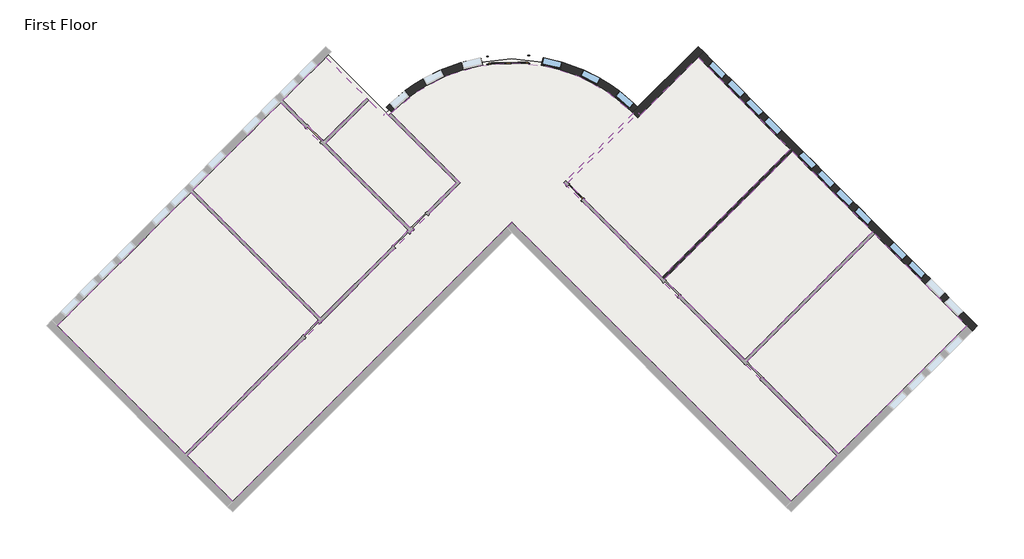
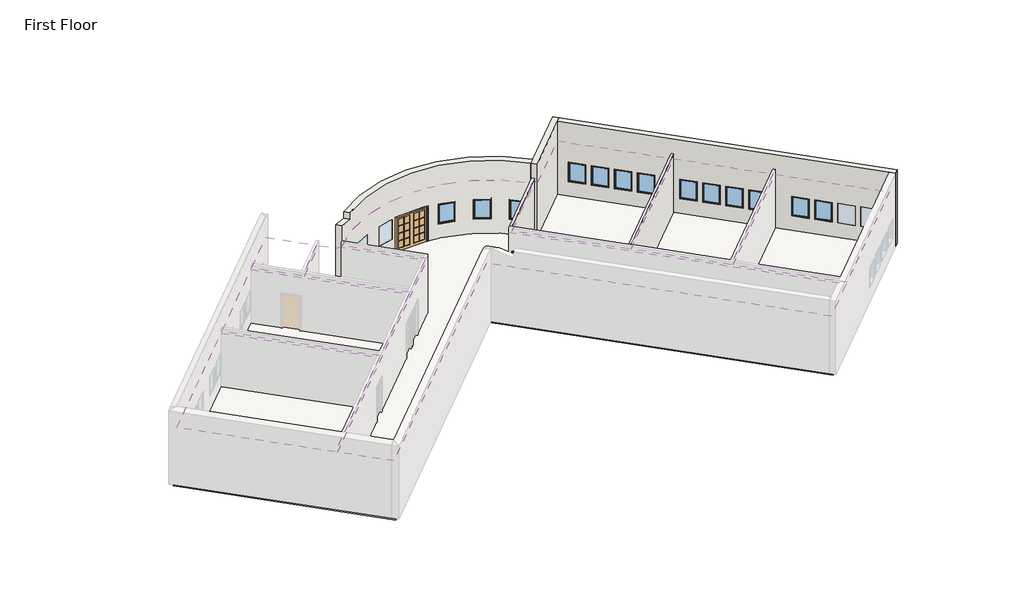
# One storey, part 2 of 2: 13 windows, 8 coverings, 5 walls, 2 doors, 1 slab.
"""IFC4 building model written with IfcOpenShell, lengths in millimetres."""

from ifc_helpers import new_model, si_unit, point, frame, frame_2d, origin, origin_with_axes, place, context, project, spatial, polyline, circle_curve, ellipse_curve, trimmed, segment, composite_curve, outline, extrude, faceted_brep, transform, mapped, element, save
from ifc_brep_helpers import plane_surface, cylinder_surface, revolved_surface, advanced_brep
from components import m_double_glass_2_1830_x_2134mm_ef281dce, m_single_glass_1_0915_x_2134mm_4e5e1233, m_fixed_0915_x_1220mm_bde29121, m_fixed_0915_x_1220mm_2a2509e7

model = new_model("IFC4")

# Units and contexts
model_context = context("Model", 3, world=origin())
ifc_project = project(units=[si_unit("LENGTHUNIT", "METRE", prefix="MILLI")], contexts=[model_context])

# Site, building, storey
site = spatial("IfcSite", under=ifc_project)
building = spatial("IfcBuilding", under=site)
storey = spatial("IfcBuildingStorey", under=building, Name="First Floor", Elevation=0.0)

# Coverings
placement = place(None, origin())
element("IfcCovering", 1, ObjectType="600 x 600mm grid", at=placement, inside=storey, context=model_context, shape_type="SweptSolid", body=[
    extrude(outline(polyline([(-10551.8033322, -2052.473346), (-16737.0431239, -8237.7131378), (-22658.8856396, -2315.870622), (-16473.6458479, 3869.3691697), (-10551.8033322, -2052.473346)])), frame((0.0, 0.0, 3353.0), z_axis=(0.0, 0.0, 1.0), x_axis=(1.0, 0.0, 0.0)), (0.0, 0.0, 1.0), 52.0),
])
element("IfcCovering", 2, ObjectType="600 x 600mm grid", at=placement, inside=storey, context=model_context, shape_type="SweptSolid", body=[
    extrude(outline(polyline([(-16375.7115587, 3967.3034589), (-12319.9238385, 8023.0911791), (-6398.0813228, 2101.2486633), (-10453.869043, -1954.5390569), (-16375.7115587, 3967.3034589)])), frame((0.0, 0.0, 3353.0), z_axis=(0.0, 0.0, 1.0), x_axis=(1.0, 0.0, 0.0)), (0.0, 0.0, 1.0), 52.0),
])
element("IfcCovering", 3, ObjectType="600 x 600mm grid", at=placement, inside=storey, context=model_context, shape_type="SweptSolid", body=[
    extrude(outline(polyline([(-12221.9895493, 8121.0254683), (-10222.2915721, 10120.7234455), (-8331.6648159, 8230.0966893), (-10331.3627931, 6230.3987121), (-12221.9895493, 8121.0254683)])), frame((0.0, 0.0, 3353.0), z_axis=(0.0, 0.0, 1.0), x_axis=(1.0, 0.0, 0.0)), (0.0, 0.0, 1.0), 52.0),
])
element("IfcCovering", 4, ObjectType="600 x 600mm grid", at=placement, inside=storey, context=model_context, shape_type="SweptSolid", body=[
    extrude(outline(polyline([(-8233.7305267, 8132.1624001), (-7543.133828, 7441.5657013), (-7436.5374807, 7548.1620486), (-4193.8527091, 4305.477277), (-6300.1470336, 2199.1829525), (-10233.4285039, 6132.4644229), (-8233.7305267, 8132.1624001)])), frame((0.0, 0.0, 3353.0), z_axis=(0.0, 0.0, 1.0), x_axis=(1.0, 0.0, 0.0)), (0.0, 0.0, 1.0), 52.0),
])
element("IfcCovering", 5, ObjectType="600 x 600mm grid", at=placement, inside=storey, context=model_context, shape_type="SweptSolid", body=[
    extrude(outline(polyline([(4234.0460889, 7548.1620486), (4340.6424361, 7441.5657013), (7019.8001803, 10120.7234455), (11281.3559738, 5859.167652), (5359.5134581, -62.6748638), (991.3613173, 4305.477277), (4234.0460889, 7548.1620486)])), frame((0.0, 0.0, 3353.0), z_axis=(0.0, 0.0, 1.0), x_axis=(1.0, 0.0, 0.0)), (0.0, 0.0, 1.0), 52.0),
])
element("IfcCovering", 6, ObjectType="600 x 600mm grid", at=placement, inside=storey, context=model_context, shape_type="SweptSolid", body=[
    extrude(outline(polyline([(11379.290263, 5761.2333628), (15096.9041651, 2043.6194607), (9175.0616494, -3878.2230551), (5457.4477473, -160.609153), (11379.290263, 5761.2333628)])), frame((0.0, 0.0, 3353.0), z_axis=(0.0, 0.0, 1.0), x_axis=(1.0, 0.0, 0.0)), (0.0, 0.0, 1.0), 52.0),
])
element("IfcCovering", 7, ObjectType="600 x 600mm grid", at=placement, inside=storey, context=model_context, shape_type="SweptSolid", body=[
    extrude(outline(polyline([(15194.8384543, 1945.6851715), (19456.3942478, -2315.870622), (13534.5517321, -8237.7131378), (9272.9959386, -3976.1573443), (15194.8384543, 1945.6851715)])), frame((0.0, 0.0, 3353.0), z_axis=(0.0, 0.0, 1.0), x_axis=(1.0, 0.0, 0.0)), (0.0, 0.0, 1.0), 52.0),
])
element("IfcCovering", 8, ObjectType="600 x 600mm grid", at=placement, inside=storey, context=model_context, shape_type="SweptSolid", body=[
    extrude(outline(composite_curve([segment(polyline([(795.4927389, 4305.477277), (13436.6174429, -8335.647427), (11330.3231184, -10441.9417514), (-1601.2456959, 2489.6270629), (-14532.8145102, -10441.9417514), (-16639.1088347, -8335.647427), (-3997.9841307, 4305.477277), (-7216.038281, 7523.5314273)]), True, "CONTINUOUS"), segment(trimmed(circle_curve(frame_2d((-1601.2456959, 1994.6523161)), 7880.0), [point((-7216.038281, 7523.5314273))], [point((4013.5468892, 7523.5314273))], False, "CARTESIAN"), True, "CONTINUOUS"), segment(polyline([(4013.5468892, 7523.5314273), (795.4927389, 4305.477277)]), True, "CONTINUOUS")], self_intersect=False)), frame((0.0, 0.0, 3353.0), z_axis=(0.0, 0.0, 1.0), x_axis=(1.0, 0.0, 0.0)), (0.0, 0.0, 1.0), 52.0),
])

# Doors
m_double_glass_2_1830_x_2134mm_shape = m_double_glass_2_1830_x_2134mm_ef281dce(model_context)
element("IfcDoor", 9, ObjectType="M_Double-Glass 2 : 1830 x 2134mm", at=placement, inside=storey, context=model_context, shape_type="MappedRepresentation", body=[
    mapped(m_double_glass_2_1830_x_2134mm_shape, transform((-1775.1372024, 9996.7407669, 0.0), x_axis=(-0.9997639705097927, -0.021725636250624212, 0.0), y_axis=(0.021725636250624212, -0.9997639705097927, 0.0), z_axis=(0.0, 0.0, 1.0))),
])
m_single_glass_1_0915_x_2134mm_shape = m_single_glass_1_0915_x_2134mm_4e5e1233(model_context)
element("IfcDoor", 10, ObjectType="M_Single-Glass 1 : 0915 x 2134mm", at=placement, inside=storey, context=model_context, shape_type="MappedRepresentation", body=[
    mapped(m_single_glass_1_0915_x_2134mm_shape, transform((1324.7621646, 3874.1421405, 0.0), x_axis=(-0.7071067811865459, 0.7071067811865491, 0.0), y_axis=(-0.7071067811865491, -0.7071067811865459, 0.0), z_axis=(0.0, 0.0, 1.0))),
])

# Slab
element("IfcSlab", 11, ObjectType="160mm Concrete With 50mm Metal Deck", at=placement, inside=storey, context=model_context, shape_type="SweptSolid", body=[
    extrude(outline(composite_curve([segment(polyline([(-10222.2915721, 10354.0686833), (-7419.2302211, 7551.0073322)]), True, "CONTINUOUS"), segment(trimmed(circle_curve(frame_2d((-1601.2456959, 1994.6523161)), 8045.0), [point((-7419.2302211, 7551.0073322))], [point((4216.7388292, 7551.0073322))], False, "CARTESIAN"), True, "CONTINUOUS"), segment(polyline([(4216.7388292, 7551.0073322), (7019.8001803, 10354.0686833), (19689.7394856, -2315.870622), (11330.3231184, -10675.2869892), (-1601.2456959, 2256.2818251), (-14532.8145102, -10675.2869892), (-22892.2308774, -2315.870622), (-10222.2915721, 10354.0686833)]), True, "CONTINUOUS")], self_intersect=False)), frame((0.0, 0.0, -210.0), z_axis=(0.0, 0.0, 1.0), x_axis=(1.0, 0.0, 0.0)), (0.0, 0.0, 1.0), 210.0),
])

# Walls
element("IfcWall", 12, ObjectType="Exterior - Brick on Mtl. Stud", at=placement, inside=storey, context=model_context, shape_type="AdvancedBrep", body=[
    advanced_brep(
    [(4212.7441701, 7313.6674352, 4572.0), (4212.7441701, 7313.6674352, 0.0), (7019.8001803, 10120.7234455, 0.0), (7267.2875537, 10368.2108189, 0.0), (7267.2875537, 10368.2108189, 4572.0), (7019.8001803, 10120.7234455, 4572.0), (3970.7557398, 7566.6537518, 0.0), (3970.7557398, 7566.6537518, 4572.0), (4218.2431133, 7814.1411252, 4572.0), (7019.8001803, 10615.6981923, 4572.0), (7019.8001803, 10615.6981923, 0.0), (4218.2431133, 7814.1411252, 0.0), (4109.8638796, 7423.9826013, 0.0), (4013.5506313, 7523.5275434, 0.0)],
    [
        (0, 1),
        (1, 2),
        (2, 3),
        (3, 4),
        (4, 5),
        (5, 0),
        (6, 7),
        (7, 8),
        (8, 9),
        (9, 10),
        (10, 11),
        (11, 6),
        (1, 12, circle_curve(frame((-1601.2456959, 1994.6523161, 0.0), z_axis=(0.0, 0.0, 1.0), x_axis=(1.0, 0.0, 0.0)), 7880.0)),
        (12, 13, circle_curve(frame((-1601.2456959, 1994.6523161, 0.0), z_axis=(0.0, 0.0, 1.0), x_axis=(1.0, 0.0, 0.0)), 7879.9999955)),
        (13, 6, circle_curve(frame((-1601.2456959, 1994.6523161, 0.0), z_axis=(0.0, 0.0, 1.0), x_axis=(1.0, 0.0, 0.0)), 7879.9999413)),
        (10, 3),
        (4, 9),
        (7, 0, circle_curve(frame((-1601.2456959, 1994.6523161, 4572.0), z_axis=(0.0, 0.0, -1.0), x_axis=(1.0, 0.0, 0.0)), 7880.0)),
    ],
    [
        plane_surface(frame((4250.0629184, 7350.9861836, 0.0), z_axis=(0.7071067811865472, -0.7071067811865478, 0.0), x_axis=(0.7071067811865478, 0.7071067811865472, 0.0))),
        plane_surface(frame((4002.575545, 7598.473557, 0.0), z_axis=(-0.7071067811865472, 0.7071067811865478, 0.0), x_axis=(-0.7071067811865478, -0.7071067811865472, 0.0))),
        plane_surface(frame((4340.6424361, 7441.5657013, 0.0), z_axis=(0.0, 0.0, -1.0), x_axis=(-0.7071067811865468, 0.7071067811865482, 0.0))),
        plane_surface(frame((7143.543867, 10244.4671322, 4572.0), z_axis=(0.0, 0.0, 1.0), x_axis=(-0.707106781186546, 0.7071067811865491, 0.0))),
        plane_surface(frame((7019.8001803, 10615.6981923, 0.0), z_axis=(0.7071067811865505, 0.7071067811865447, 0.0), x_axis=(-0.7071067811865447, 0.7071067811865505, 0.0))),
        revolved_surface(polyline([(6278.7543041, 1994.6523161, 0.0), (6278.7543041, 1994.6523161, 4572.0)]), (-1601.2456959, 1994.6523161, 0.0), (0.0, 0.0, -1.0)),
    ],
    [
        (0, [[1, 2, 3, 4, 5, 6]]),
        (1, [[7, 8, 9, 10, 11, 12]]),
        (2, [[-3, -2, 13, 14, 15, -12, -11, 16]]),
        (3, [[-6, -5, 17, -9, -8, 18]]),
        (4, [[-4, -16, -10, -17]]),
        (5, [[-18, -7, -15, -14, -13, -1]]),
    ],
),
])
element("IfcWall", 13, ObjectType="Exterior - Brick on Mtl. Stud", at=placement, inside=storey, context=model_context, shape_type="Brep", body=[
    faceted_brep([(7019.8001803, 10120.7234455, 0.0), (11281.3559738, 5859.167652, 0.0), (11379.290263, 5761.2333628, 0.0), (15096.9041651, 2043.6194607, 0.0), (15194.8384543, 1945.6851715, 0.0), (19456.3942478, -2315.870622, 0.0), (19703.8816212, -2563.3579955, 0.0), (19703.8816212, -2563.3579955, 4572.0), (19456.3942478, -2315.870622, 4572.0), (7019.8001803, 10120.7234455, 4572.0), (19041.6761207, -1901.1524949, 915.0), (18394.6734159, -1254.1497901, 915.0), (18394.6734159, -1254.1497901, 2135.0), (19041.6761207, -1901.1524949, 2135.0), (18179.7129544, -1039.1893286, 915.0), (17532.7102496, -392.1866238, 915.0), (17532.7102496, -392.1866238, 2135.0), (18179.7129544, -1039.1893286, 2135.0), (17317.7497881, -177.2261623, 915.0), (16670.7470833, 469.7765424, 915.0), (16670.7470833, 469.7765424, 2135.0), (17317.7497881, -177.2261623, 2135.0), (16455.7866219, 684.7370039, 915.0), (15808.7839171, 1331.7397087, 915.0), (15808.7839171, 1331.7397087, 2135.0), (16455.7866219, 684.7370039, 2135.0), (12257.1680181, 4883.3556077, 915.0), (11610.1653133, 5530.3583124, 915.0), (11610.1653133, 5530.3583124, 2135.0), (12257.1680181, 4883.3556077, 2135.0), (13119.1311844, 4021.3924414, 915.0), (12472.1284796, 4668.3951462, 915.0), (12472.1284796, 4668.3951462, 2135.0), (13119.1311844, 4021.3924414, 2135.0), (13981.0943507, 3159.4292751, 915.0), (13334.0916459, 3806.4319799, 915.0), (13334.0916459, 3806.4319799, 2135.0), (13981.0943507, 3159.4292751, 2135.0), (14843.0575169, 2297.4661089, 915.0), (14196.0548121, 2944.4688136, 915.0), (14196.0548121, 2944.4688136, 2135.0), (14843.0575169, 2297.4661089, 2135.0), (8081.5210123, 9059.0026135, 915.0), (7434.5183075, 9706.0053183, 915.0), (7434.5183075, 9706.0053183, 2135.0), (8081.5210123, 9059.0026135, 2135.0), (8943.4841785, 8197.0394473, 915.0), (8296.4814737, 8844.042152, 915.0), (8296.4814737, 8844.042152, 2135.0), (8943.4841785, 8197.0394473, 2135.0), (9805.4473448, 7335.076281, 915.0), (9158.44464, 7982.0789858, 915.0), (9158.44464, 7982.0789858, 2135.0), (9805.4473448, 7335.076281, 2135.0), (10667.4105111, 6473.1131147, 915.0), (10020.4078063, 7120.1158195, 915.0), (10020.4078063, 7120.1158195, 2135.0), (10667.4105111, 6473.1131147, 2135.0), (7267.2875537, 10368.2108189, 0.0), (7267.2875537, 10368.2108189, 4572.0), (19951.3689947, -2315.870622, 4572.0), (19951.3689947, -2315.870622, 0.0), (19289.1634941, -1653.6651215, 915.0), (19289.1634941, -1653.6651215, 2135.0), (18642.1607893, -1006.6624167, 2135.0), (18642.1607893, -1006.6624167, 915.0), (18427.2003278, -791.7019552, 915.0), (18427.2003278, -791.7019552, 2135.0), (17780.197623, -144.6992504, 2135.0), (17780.197623, -144.6992504, 915.0), (17565.2371615, 70.2612111, 915.0), (17565.2371615, 70.2612111, 2135.0), (16918.2344568, 717.2639159, 2135.0), (16918.2344568, 717.2639159, 915.0), (16703.2739953, 932.2243773, 915.0), (16703.2739953, 932.2243773, 2135.0), (16056.2712905, 1579.2270821, 2135.0), (16056.2712905, 1579.2270821, 915.0), (12504.6553915, 5130.8429811, 915.0), (12504.6553915, 5130.8429811, 2135.0), (11857.6526868, 5777.8456859, 2135.0), (11857.6526868, 5777.8456859, 915.0), (13366.6185578, 4268.8798148, 915.0), (13366.6185578, 4268.8798148, 2135.0), (12719.615853, 4915.8825196, 2135.0), (12719.615853, 4915.8825196, 915.0), (14228.5817241, 3406.9166485, 915.0), (14228.5817241, 3406.9166485, 2135.0), (13581.5790193, 4053.9193533, 2135.0), (13581.5790193, 4053.9193533, 915.0), (15090.5448903, 2544.9534823, 915.0), (15090.5448903, 2544.9534823, 2135.0), (14443.5421856, 3191.9561871, 2135.0), (14443.5421856, 3191.9561871, 915.0), (8329.0083857, 9306.4899869, 915.0), (8329.0083857, 9306.4899869, 2135.0), (7682.0056809, 9953.4926917, 2135.0), (7682.0056809, 9953.4926917, 915.0), (9190.971552, 8444.5268207, 915.0), (9190.971552, 8444.5268207, 2135.0), (8543.9688472, 9091.5295255, 2135.0), (8543.9688472, 9091.5295255, 915.0), (10052.9347182, 7582.5636544, 915.0), (10052.9347182, 7582.5636544, 2135.0), (9405.9320134, 8229.5663592, 2135.0), (9405.9320134, 8229.5663592, 915.0), (10914.8978845, 6720.6004881, 915.0), (10914.8978845, 6720.6004881, 2135.0), (10267.8951797, 7367.6031929, 2135.0), (10267.8951797, 7367.6031929, 915.0)], [[[0, 1, 2, 3, 4, 5, 6, 7, 8, 9], [10, 11, 12, 13], [14, 15, 16, 17], [18, 19, 20, 21], [22, 23, 24, 25], [26, 27, 28, 29], [30, 31, 32, 33], [34, 35, 36, 37], [38, 39, 40, 41], [42, 43, 44, 45], [46, 47, 48, 49], [50, 51, 52, 53], [54, 55, 56, 57]], [[58, 59, 60, 61], [62, 63, 64, 65], [66, 67, 68, 69], [70, 71, 72, 73], [74, 75, 76, 77], [78, 79, 80, 81], [82, 83, 84, 85], [86, 87, 88, 89], [90, 91, 92, 93], [94, 95, 96, 97], [98, 99, 100, 101], [102, 103, 104, 105], [106, 107, 108, 109]], [[6, 5, 4, 3, 2, 1, 0, 58, 61]], [[9, 8, 7, 60, 59]], [[0, 9, 59, 58]], [[7, 6, 61, 60]], [[63, 62, 10, 13]], [[64, 63, 13, 12]], [[65, 64, 12, 11]], [[62, 65, 11, 10]], [[67, 66, 14, 17]], [[68, 67, 17, 16]], [[69, 68, 16, 15]], [[66, 69, 15, 14]], [[71, 70, 18, 21]], [[72, 71, 21, 20]], [[73, 72, 20, 19]], [[70, 73, 19, 18]], [[75, 74, 22, 25]], [[76, 75, 25, 24]], [[77, 76, 24, 23]], [[74, 77, 23, 22]], [[79, 78, 26, 29]], [[80, 79, 29, 28]], [[81, 80, 28, 27]], [[78, 81, 27, 26]], [[83, 82, 30, 33]], [[84, 83, 33, 32]], [[85, 84, 32, 31]], [[82, 85, 31, 30]], [[87, 86, 34, 37]], [[88, 87, 37, 36]], [[89, 88, 36, 35]], [[86, 89, 35, 34]], [[91, 90, 38, 41]], [[92, 91, 41, 40]], [[93, 92, 40, 39]], [[90, 93, 39, 38]], [[95, 94, 42, 45]], [[96, 95, 45, 44]], [[97, 96, 44, 43]], [[94, 97, 43, 42]], [[99, 98, 46, 49]], [[100, 99, 49, 48]], [[101, 100, 48, 47]], [[98, 101, 47, 46]], [[103, 102, 50, 53]], [[104, 103, 53, 52]], [[105, 104, 52, 51]], [[102, 105, 51, 50]], [[107, 106, 54, 57]], [[108, 107, 57, 56]], [[109, 108, 56, 55]], [[106, 109, 55, 54]]]),
])
element("IfcWall", 14, ObjectType="Exterior - Brick on Mtl. Stud", at=placement, inside=storey, context=model_context, shape_type="AdvancedBrep", body=[
    advanced_brep(
    [(-7173.2471317, 7566.6537518, 0.0), (-7420.7345051, 7814.1411252, 0.0), (-2693.7232217, 10151.8205046, 0.0), (-2686.0696858, 9799.6223295, 0.0), (4218.2431133, 7814.1411252, 0.0), (3970.7557398, 7566.6537518, 0.0), (-856.5016198, 9839.3802439, 0.0), (-864.1551557, 10191.5784189, 0.0), (-7420.7345051, 7814.1411252, 4571.7250795), (-6493.7687298, 8612.515896, 4165.1754932), (-6493.7687298, 8612.515896, 4572.0), (4218.2431133, 7814.1411252, 4572.0), (-864.1551557, 10191.5784189, 2134.0), (-2693.7232217, 10151.8205046, 2134.0), (-6560.8584073, 8562.3872188, 915.0), (-6560.8584073, 8562.3872188, 2135.0), (-7259.2688911, 7971.2461222, 2135.0), (-7259.2688911, 7971.2461222, 915.0), (-3038.6037285, 10098.1640169, 915.0), (-3038.6037285, 10098.1640169, 2135.0), (-3929.264468, 9888.5251676, 2135.0), (-3929.264468, 9888.5251676, 915.0), (-4890.6166492, 9538.7187747, 915.0), (-4890.6166492, 9538.7187747, 2135.0), (-5707.7291441, 9126.9516431, 2135.0), (-5707.7291441, 9126.9516431, 915.0), (1688.1252574, 9538.7187747, 2135.0), (1688.1252574, 9538.7187747, 915.0), (2505.2377523, 9126.9516431, 915.0), (2505.2377523, 9126.9516431, 2135.0), (-163.8876633, 10098.1640169, 2135.0), (-163.8876633, 10098.1640169, 915.0), (726.7730762, 9888.5251676, 915.0), (726.7730762, 9888.5251676, 2135.0), (3358.3670155, 8562.3872188, 2135.0), (3358.3670155, 8562.3872188, 915.0), (4056.7774992, 7971.2461222, 915.0), (4056.7774992, 7971.2461222, 2135.0), (-7173.2471317, 7566.6537518, 4571.7250795), (-2686.0696858, 9799.6223295, 2134.0), (-856.5016198, 9839.3802439, 2134.0), (3970.7557398, 7566.6537518, 4572.0), (-6243.3914961, 8362.1386623, 4572.0), (-6243.3914961, 8362.1386623, 4165.1754932), (-6334.373084, 8294.8035149, 915.0), (-7032.7835678, 7703.6624182, 915.0), (-7032.7835678, 7703.6624182, 2135.0), (-6334.373084, 8294.8035149, 2135.0), (-2958.2842873, 9756.9230059, 2135.0), (-2958.2842873, 9756.9230059, 915.0), (-3848.9450268, 9547.2841566, 915.0), (-3848.9450268, 9547.2841566, 2135.0), (-4732.8553085, 9225.6564811, 2135.0), (-4732.8553085, 9225.6564811, 915.0), (-5549.9678034, 8813.8893495, 915.0), (-5549.9678034, 8813.8893495, 2135.0), (1530.3639167, 9225.6564811, 915.0), (1530.3639167, 9225.6564811, 2135.0), (2347.4764116, 8813.8893495, 2135.0), (2347.4764116, 8813.8893495, 915.0), (-244.2071045, 9756.9230059, 915.0), (-244.2071045, 9756.9230059, 2135.0), (646.453635, 9547.2841566, 2135.0), (646.453635, 9547.2841566, 915.0), (3131.8816922, 8294.8035149, 915.0), (3131.8816922, 8294.8035149, 2135.0), (3830.2921759, 7703.6624182, 2135.0), (3830.2921759, 7703.6624182, 915.0)],
    [
        (0, 1),
        (1, 2, circle_curve(frame((-1601.2456959, 1994.6523161, 0.0), z_axis=(0.0, 0.0, -1.0), x_axis=(1.0, 0.0, 0.0)), 8230.0)),
        (2, 3),
        (3, 0, circle_curve(frame((-1601.2456959, 1994.6523161, 0.0), z_axis=(0.0, 0.0, 1.0), x_axis=(1.0, 0.0, 0.0)), 7880.0)),
        (4, 5),
        (5, 6, circle_curve(frame((-1601.2456959, 1994.6523161, 0.0), z_axis=(0.0, 0.0, 1.0), x_axis=(1.0, 0.0, 0.0)), 7880.0)),
        (6, 7),
        (7, 4, circle_curve(frame((-1601.2456959, 1994.6523161, 0.0), z_axis=(0.0, 0.0, -1.0), x_axis=(1.0, 0.0, 0.0)), 8230.0)),
        (1, 8),
        (8, 9, ellipse_curve(frame((-1601.2456959, 1994.6523161, 4571.7250795), z_axis=(-0.22354885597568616, -0.22354885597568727, -0.948710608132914), x_axis=(-0.6708397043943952, -0.6708397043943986, 0.3161458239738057)), 8674.9319861, 8230.0)),
        (9, 10),
        (10, 11, circle_curve(frame((-1601.2456959, 1994.6523161, 4572.0), z_axis=(0.0, 0.0, -1.0), x_axis=(1.0, 0.0, 0.0)), 8230.0)),
        (11, 4),
        (7, 12),
        (12, 13, circle_curve(frame((-1601.2456959, 1994.6523161, 2134.0), z_axis=(0.0, 0.0, 1.0), x_axis=(1.0, 0.0, 0.0)), 8230.0)),
        (13, 2),
        (14, 15),
        (15, 16, circle_curve(frame((-1601.2456959, 1994.6523161, 2135.0), z_axis=(0.0, 0.0, 1.0), x_axis=(1.0, 0.0, 0.0)), 8230.0)),
        (16, 17),
        (17, 14, circle_curve(frame((-1601.2456959, 1994.6523161, 915.0), z_axis=(0.0, 0.0, -1.0), x_axis=(1.0, 0.0, 0.0)), 8230.0)),
        (18, 19),
        (19, 20, circle_curve(frame((-1601.2456959, 1994.6523161, 2135.0), z_axis=(0.0, 0.0, 1.0), x_axis=(1.0, 0.0, 0.0)), 8230.0)),
        (20, 21),
        (21, 18, circle_curve(frame((-1601.2456959, 1994.6523161, 915.0), z_axis=(0.0, 0.0, -1.0), x_axis=(1.0, 0.0, 0.0)), 8230.0)),
        (22, 23),
        (23, 24, circle_curve(frame((-1601.2456959, 1994.6523161, 2135.0), z_axis=(0.0, 0.0, 1.0), x_axis=(1.0, 0.0, 0.0)), 8230.0)),
        (24, 25),
        (25, 22, circle_curve(frame((-1601.2456959, 1994.6523161, 915.0), z_axis=(0.0, 0.0, -1.0), x_axis=(1.0, 0.0, 0.0)), 8230.0)),
        (26, 27),
        (27, 28, circle_curve(frame((-1601.2456959, 1994.6523161, 915.0), z_axis=(0.0, 0.0, -1.0), x_axis=(1.0, 0.0, 0.0)), 8230.0)),
        (28, 29),
        (29, 26, circle_curve(frame((-1601.2456959, 1994.6523161, 2135.0), z_axis=(0.0, 0.0, 1.0), x_axis=(1.0, 0.0, 0.0)), 8230.0)),
        (30, 31),
        (31, 32, circle_curve(frame((-1601.2456959, 1994.6523161, 915.0), z_axis=(0.0, 0.0, -1.0), x_axis=(1.0, 0.0, 0.0)), 8230.0)),
        (32, 33),
        (33, 30, circle_curve(frame((-1601.2456959, 1994.6523161, 2135.0), z_axis=(0.0, 0.0, 1.0), x_axis=(1.0, 0.0, 0.0)), 8230.0)),
        (34, 35),
        (35, 36, circle_curve(frame((-1601.2456959, 1994.6523161, 915.0), z_axis=(0.0, 0.0, -1.0), x_axis=(1.0, 0.0, 0.0)), 8230.0)),
        (36, 37),
        (37, 34, circle_curve(frame((-1601.2456959, 1994.6523161, 2135.0), z_axis=(0.0, 0.0, 1.0), x_axis=(1.0, 0.0, 0.0)), 8230.0)),
        (38, 0),
        (3, 39),
        (39, 40, circle_curve(frame((-1601.2456959, 1994.6523161, 2134.0), z_axis=(0.0, 0.0, -1.0), x_axis=(1.0, 0.0, 0.0)), 7880.0)),
        (40, 6),
        (5, 41),
        (41, 42, circle_curve(frame((-1601.2456959, 1994.6523161, 4572.0), z_axis=(0.0, 0.0, 1.0), x_axis=(1.0, 0.0, 0.0)), 7880.0)),
        (42, 43),
        (43, 38, ellipse_curve(frame((-1601.2456959, 1994.6523161, 4571.7250795), z_axis=(0.22354885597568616, 0.22354885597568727, 0.948710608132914), x_axis=(0.6708397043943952, 0.6708397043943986, -0.3161458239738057)), 8306.0102126, 7880.0)),
        (44, 45, circle_curve(frame((-1601.2456959, 1994.6523161, 915.0), z_axis=(0.0, 0.0, 1.0), x_axis=(1.0, 0.0, 0.0)), 7880.0)),
        (45, 46),
        (46, 47, circle_curve(frame((-1601.2456959, 1994.6523161, 2135.0), z_axis=(0.0, 0.0, -1.0), x_axis=(1.0, 0.0, 0.0)), 7880.0)),
        (47, 44),
        (48, 49),
        (49, 50, circle_curve(frame((-1601.2456959, 1994.6523161, 915.0), z_axis=(0.0, 0.0, 1.0), x_axis=(1.0, 0.0, 0.0)), 7880.0)),
        (50, 51),
        (51, 48, circle_curve(frame((-1601.2456959, 1994.6523161, 2135.0), z_axis=(0.0, 0.0, -1.0), x_axis=(1.0, 0.0, 0.0)), 7880.0)),
        (52, 53),
        (53, 54, circle_curve(frame((-1601.2456959, 1994.6523161, 915.0), z_axis=(0.0, 0.0, 1.0), x_axis=(1.0, 0.0, 0.0)), 7880.0)),
        (54, 55),
        (55, 52, circle_curve(frame((-1601.2456959, 1994.6523161, 2135.0), z_axis=(0.0, 0.0, -1.0), x_axis=(1.0, 0.0, 0.0)), 7880.0)),
        (56, 57),
        (57, 58, circle_curve(frame((-1601.2456959, 1994.6523161, 2135.0), z_axis=(0.0, 0.0, -1.0), x_axis=(1.0, 0.0, 0.0)), 7880.0)),
        (58, 59),
        (59, 56, circle_curve(frame((-1601.2456959, 1994.6523161, 915.0), z_axis=(0.0, 0.0, 1.0), x_axis=(1.0, 0.0, 0.0)), 7880.0)),
        (60, 61),
        (61, 62, circle_curve(frame((-1601.2456959, 1994.6523161, 2135.0), z_axis=(0.0, 0.0, -1.0), x_axis=(1.0, 0.0, 0.0)), 7880.0)),
        (62, 63),
        (63, 60, circle_curve(frame((-1601.2456959, 1994.6523161, 915.0), z_axis=(0.0, 0.0, 1.0), x_axis=(1.0, 0.0, 0.0)), 7880.0)),
        (64, 65),
        (65, 66, circle_curve(frame((-1601.2456959, 1994.6523161, 2135.0), z_axis=(0.0, 0.0, -1.0), x_axis=(1.0, 0.0, 0.0)), 7880.0)),
        (66, 67),
        (67, 64, circle_curve(frame((-1601.2456959, 1994.6523161, 915.0), z_axis=(0.0, 0.0, 1.0), x_axis=(1.0, 0.0, 0.0)), 7880.0)),
        (38, 8),
        (11, 41),
        (13, 39),
        (12, 40),
        (14, 44),
        (47, 15),
        (46, 16),
        (45, 17),
        (18, 49),
        (48, 19),
        (51, 20),
        (50, 21),
        (22, 53),
        (52, 23),
        (55, 24),
        (54, 25),
        (56, 27),
        (26, 57),
        (29, 58),
        (28, 59),
        (60, 31),
        (30, 61),
        (33, 62),
        (32, 63),
        (64, 35),
        (34, 65),
        (37, 66),
        (36, 67),
        (10, 42),
        (9, 43),
    ],
    [
        plane_surface(frame((6628.7543041, 1994.6523161, 0.0), z_axis=(0.0, 0.0, -1.0), x_axis=(0.0, -1.0, 0.0))),
        cylinder_surface(frame((-1601.2456959, 1994.6523161, 0.0), z_axis=(0.0, 0.0, 1.0), x_axis=(1.0, 0.0, 0.0)), 8230.0),
        revolved_surface(polyline([(6278.7543041, 1994.6523161, 0.0), (6278.7543041, 1994.6523161, 7197.635522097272)]), (-1601.2456959, 1994.6523161, 0.0), (0.0, 0.0, -1.0)),
        plane_surface(frame((-10222.2915721, 10615.6981923, 0.0), z_axis=(-0.7071067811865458, -0.7071067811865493, 0.0), x_axis=(-0.7071067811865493, 0.7071067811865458, 0.0))),
        plane_surface(frame((4002.575545, 7598.473557, 0.0), z_axis=(0.7071067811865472, -0.7071067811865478, 0.0), x_axis=(-0.7071067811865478, -0.7071067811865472, 0.0))),
        plane_surface(frame((-2726.8330914, 11675.4607956, 0.0), z_axis=(0.9997639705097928, 0.021725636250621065, 0.0), x_axis=(0.021725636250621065, -0.9997639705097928, 0.0))),
        plane_surface(frame((-2726.8330914, 11675.4607956, 2134.0), z_axis=(0.0, 0.0, -1.0000000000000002), x_axis=(0.021725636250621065, -0.9997639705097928, 0.0))),
        plane_surface(frame((-897.2650253, 11715.21871, 2134.0), z_axis=(-0.9997639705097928, -0.021725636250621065, 0.0), x_axis=(0.021725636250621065, -0.9997639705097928, 0.0))),
        plane_surface(frame((-6560.8584073, 8562.3872188, 915.0), z_axis=(-0.7632901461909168, -0.6460558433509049, 0.0), x_axis=(0.6460558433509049, -0.7632901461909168, 0.0))),
        plane_surface(frame((-6560.8584073, 8562.3872188, 2135.0), z_axis=(0.0, 0.0, -1.0000000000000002), x_axis=(0.6460558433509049, -0.7632901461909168, 0.0))),
        plane_surface(frame((-7259.2688911, 7971.2461222, 2135.0), z_axis=(0.7632901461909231, 0.6460558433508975, 0.0), x_axis=(0.6460558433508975, -0.7632901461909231, 0.0))),
        plane_surface(frame((-7259.2688911, 7971.2461222, 915.0), z_axis=(0.0, 0.0, 1.0), x_axis=(0.6460558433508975, -0.7632901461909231, 0.0))),
        plane_surface(frame((-2689.4347599, 8614.7028508, 915.0), z_axis=(-0.9733997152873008, -0.22911349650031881, 0.0), x_axis=(-0.22911349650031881, 0.9733997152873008, 0.0))),
        plane_surface(frame((-2689.4347599, 8614.7028508, 2135.0), z_axis=(0.0, 0.0, -1.0), x_axis=(-0.22911349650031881, 0.9733997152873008, 0.0))),
        plane_surface(frame((-3580.0954993, 8405.0640015, 2135.0), z_axis=(0.9733997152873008, 0.2291134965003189, 0.0), x_axis=(-0.2291134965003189, 0.9733997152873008, 0.0))),
        plane_surface(frame((-3580.0954993, 8405.0640015, 915.0), z_axis=(0.0, 0.0, 1.0), x_axis=(-0.2291134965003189, 0.9733997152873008, 0.0))),
        plane_surface(frame((-4890.6166492, 9538.7187747, 915.0), z_axis=(-0.893019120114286, -0.4500187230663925, 0.0), x_axis=(0.4500187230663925, -0.893019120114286, 0.0))),
        plane_surface(frame((-4890.6166492, 9538.7187747, 2135.0), z_axis=(0.0, 0.0, -1.0), x_axis=(0.4500187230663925, -0.893019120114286, 0.0))),
        plane_surface(frame((-5707.7291441, 9126.9516431, 2135.0), z_axis=(0.8930191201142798, 0.4500187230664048, 0.0), x_axis=(0.4500187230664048, -0.8930191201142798, 0.0))),
        plane_surface(frame((-5707.7291441, 9126.9516431, 915.0), z_axis=(0.0, 0.0, 1.0), x_axis=(0.4500187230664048, -0.8930191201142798, 0.0))),
        plane_surface(frame((1530.3639167, 9225.6564811, 915.0), z_axis=(0.8930191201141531, -0.4500187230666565, 0.0), x_axis=(0.4500187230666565, 0.8930191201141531, 0.0))),
        plane_surface(frame((1530.3639167, 9225.6564811, 2135.0), z_axis=(0.0, 0.0, -1.0000000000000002), x_axis=(0.4500187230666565, 0.8930191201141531, 0.0))),
        plane_surface(frame((2347.4764116, 8813.8893495, 2135.0), z_axis=(-0.8930191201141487, 0.45001872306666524, 0.0), x_axis=(0.45001872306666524, 0.8930191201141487, 0.0))),
        plane_surface(frame((2347.4764116, 8813.8893495, 915.0), z_axis=(0.0, 0.0, 1.0000000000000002), x_axis=(0.45001872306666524, 0.8930191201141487, 0.0))),
        plane_surface(frame((-244.2071045, 9756.9230059, 915.0), z_axis=(0.9733997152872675, -0.2291134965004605, 0.0), x_axis=(0.2291134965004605, 0.9733997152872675, 0.0))),
        plane_surface(frame((-244.2071045, 9756.9230059, 2135.0), z_axis=(0.0, 0.0, -1.0), x_axis=(0.2291134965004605, 0.9733997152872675, 0.0))),
        plane_surface(frame((646.453635, 9547.2841566, 2135.0), z_axis=(-0.9733997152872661, 0.22911349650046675, 0.0), x_axis=(0.22911349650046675, 0.9733997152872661, 0.0))),
        plane_surface(frame((646.453635, 9547.2841566, 915.0), z_axis=(0.0, 0.0, 1.0000000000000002), x_axis=(0.22911349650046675, 0.9733997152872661, 0.0))),
        plane_surface(frame((3131.8816922, 8294.8035149, 915.0), z_axis=(0.7632901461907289, -0.646055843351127, 0.0), x_axis=(0.646055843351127, 0.7632901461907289, 0.0))),
        plane_surface(frame((3131.8816922, 8294.8035149, 2135.0), z_axis=(0.0, 0.0, -1.0), x_axis=(0.646055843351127, 0.7632901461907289, 0.0))),
        plane_surface(frame((3830.2921759, 7703.6624182, 2135.0), z_axis=(-0.7632901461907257, 0.6460558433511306, 0.0), x_axis=(0.6460558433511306, 0.7632901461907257, 0.0))),
        plane_surface(frame((3830.2921759, 7703.6624182, 915.0), z_axis=(0.0, 0.0, 1.0), x_axis=(0.6460558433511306, 0.7632901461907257, 0.0))),
        plane_surface(frame((6628.7543041, 1994.6523161, 4572.0), z_axis=(0.0, 0.0, 1.0), x_axis=(0.0, 1.0, 0.0))),
        plane_surface(frame((-5049.098361, 7167.8455272, 4165.1754932), z_axis=(-0.7071067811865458, -0.7071067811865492, 0.0), x_axis=(-0.7071067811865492, 0.7071067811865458, 0.0))),
        plane_surface(frame((124.0948502, 1994.6523161, 4165.1754932), z_axis=(0.22354885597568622, 0.22354885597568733, 0.9487106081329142), x_axis=(-0.7071067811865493, 0.7071067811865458, 0.0))),
    ],
    [
        (0, [[1, 2, 3, 4]]),
        (0, [[5, 6, 7, 8]]),
        (1, [[9, 10, 11, 12, 13, -8, 14, 15, 16, -2], [17, 18, 19, 20], [21, 22, 23, 24], [25, 26, 27, 28], [29, 30, 31, 32], [33, 34, 35, 36], [37, 38, 39, 40]]),
        (2, [[41, -4, 42, 43, 44, -6, 45, 46, 47, 48], [49, 50, 51, 52], [53, 54, 55, 56], [57, 58, 59, 60], [61, 62, 63, 64], [65, 66, 67, 68], [69, 70, 71, 72]]),
        (3, [[-1, -41, 73, -9]]),
        (4, [[74, -45, -5, -13]]),
        (5, [[75, -42, -3, -16]]),
        (6, [[-75, -15, 76, -43]]),
        (7, [[-76, -14, -7, -44]]),
        (8, [[-17, 77, -52, 78]]),
        (9, [[-18, -78, -51, 79]]),
        (10, [[-19, -79, -50, 80]]),
        (11, [[-20, -80, -49, -77]]),
        (12, [[81, -53, 82, -21]]),
        (13, [[-82, -56, 83, -22]]),
        (14, [[-83, -55, 84, -23]]),
        (15, [[-81, -24, -84, -54]]),
        (16, [[-25, 85, -57, 86]]),
        (17, [[-26, -86, -60, 87]]),
        (18, [[-27, -87, -59, 88]]),
        (19, [[-28, -88, -58, -85]]),
        (20, [[-61, 89, -29, 90]]),
        (21, [[-62, -90, -32, 91]]),
        (22, [[-63, -91, -31, 92]]),
        (23, [[-64, -92, -30, -89]]),
        (24, [[-65, 93, -33, 94]]),
        (25, [[-66, -94, -36, 95]]),
        (26, [[-67, -95, -35, 96]]),
        (27, [[-68, -96, -34, -93]]),
        (28, [[-69, 97, -37, 98]]),
        (29, [[-70, -98, -40, 99]]),
        (30, [[-71, -99, -39, 100]]),
        (31, [[-72, -100, -38, -97]]),
        (32, [[-74, -12, 101, -46]]),
        (33, [[-101, -11, 102, -47]]),
        (34, [[-10, -73, -48, -102]]),
    ],
),
])
element("IfcWall", 15, ObjectType="Interior - 138mm Partition (1-hr)", at=placement, inside=storey, context=model_context, shape_type="SweptSolid", body=[
    extrude(outline(composite_curve([segment(polyline([(4109.8652288, 7423.9811885), (991.3613173, 4305.477277), (893.4270281, 4403.4115662), (4013.5468892, 7523.5314273)]), True, "CONTINUOUS"), segment(trimmed(circle_curve(frame_2d((-1601.2456959, 1994.6523161)), 7880.0), [point((4013.5468892, 7523.5314273))], [point((4109.8652288, 7423.9811885))], False, "CARTESIAN"), True, "CONTINUOUS")], self_intersect=False)), origin_with_axes(), (0.0, 0.0, 1.0), 3658.0),
])
element("IfcWall", 16, ObjectType="Interior - 138mm Partition (1-hr)", at=placement, inside=storey, context=model_context, shape_type="SweptSolid", body=[
    extrude(outline(polyline([(11379.290263, 5761.2333628), (5457.4477473, -160.609153), (5359.5134581, -62.6748638), (11281.3559738, 5859.167652), (11379.290263, 5761.2333628)])), origin_with_axes(), (0.0, 0.0, 1.0), 3658.0),
])

# Windows
m_fixed_0915_x_1220mm_shape = m_fixed_0915_x_1220mm_bde29121(model_context)
element("IfcWindow", 17, ObjectType="M_Fixed : 0915 x 1220mm", at=placement, inside=storey, context=model_context, shape_type="MappedRepresentation", body=[
    mapped(m_fixed_0915_x_1220mm_shape, transform((17127.1845106, 279.2112649, 0.0), x_axis=(-0.7071067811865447, 0.7071067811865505, 0.0), y_axis=(-0.7071067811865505, -0.7071067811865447, 0.0), z_axis=(0.0, 0.0, 1.0))),
])
element("IfcWindow", 18, ObjectType="M_Fixed : 0915 x 1220mm", at=placement, inside=storey, context=model_context, shape_type="MappedRepresentation", body=[
    mapped(m_fixed_0915_x_1220mm_shape, transform((16265.2213443, 1141.1744312, 0.0), x_axis=(-0.7071067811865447, 0.7071067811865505, 0.0), y_axis=(-0.7071067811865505, -0.7071067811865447, 0.0), z_axis=(0.0, 0.0, 1.0))),
])
element("IfcWindow", 19, ObjectType="M_Fixed : 0915 x 1220mm", at=placement, inside=storey, context=model_context, shape_type="MappedRepresentation", body=[
    mapped(m_fixed_0915_x_1220mm_shape, transform((14652.4922394, 2753.9035361, 0.0), x_axis=(-0.7071067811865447, 0.7071067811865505, 0.0), y_axis=(-0.7071067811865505, -0.7071067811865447, 0.0), z_axis=(0.0, 0.0, 1.0))),
])
element("IfcWindow", 20, ObjectType="M_Fixed : 0915 x 1220mm", at=placement, inside=storey, context=model_context, shape_type="MappedRepresentation", body=[
    mapped(m_fixed_0915_x_1220mm_shape, transform((13790.5290731, 3615.8667024, 0.0), x_axis=(-0.7071067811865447, 0.7071067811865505, 0.0), y_axis=(-0.7071067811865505, -0.7071067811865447, 0.0), z_axis=(0.0, 0.0, 1.0))),
])
element("IfcWindow", 21, ObjectType="M_Fixed : 0915 x 1220mm", at=placement, inside=storey, context=model_context, shape_type="MappedRepresentation", body=[
    mapped(m_fixed_0915_x_1220mm_shape, transform((12928.5659069, 4477.8298686, 0.0), x_axis=(-0.7071067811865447, 0.7071067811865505, 0.0), y_axis=(-0.7071067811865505, -0.7071067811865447, 0.0), z_axis=(0.0, 0.0, 1.0))),
])
element("IfcWindow", 22, ObjectType="M_Fixed : 0915 x 1220mm", at=placement, inside=storey, context=model_context, shape_type="MappedRepresentation", body=[
    mapped(m_fixed_0915_x_1220mm_shape, transform((12066.6027406, 5339.7930349, 0.0), x_axis=(-0.7071067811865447, 0.7071067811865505, 0.0), y_axis=(-0.7071067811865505, -0.7071067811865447, 0.0), z_axis=(0.0, 0.0, 1.0))),
])
element("IfcWindow", 23, ObjectType="M_Fixed : 0915 x 1220mm", at=placement, inside=storey, context=model_context, shape_type="MappedRepresentation", body=[
    mapped(m_fixed_0915_x_1220mm_shape, transform((7890.9557347, 9515.4400408, 0.0), x_axis=(-0.7071067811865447, 0.7071067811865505, 0.0), y_axis=(-0.7071067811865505, -0.7071067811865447, 0.0), z_axis=(0.0, 0.0, 1.0))),
])
element("IfcWindow", 24, ObjectType="M_Fixed : 0915 x 1220mm", at=placement, inside=storey, context=model_context, shape_type="MappedRepresentation", body=[
    mapped(m_fixed_0915_x_1220mm_shape, transform((8752.918901, 8653.4768745, 0.0), x_axis=(-0.7071067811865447, 0.7071067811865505, 0.0), y_axis=(-0.7071067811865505, -0.7071067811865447, 0.0), z_axis=(0.0, 0.0, 1.0))),
])
element("IfcWindow", 25, ObjectType="M_Fixed : 0915 x 1220mm", at=placement, inside=storey, context=model_context, shape_type="MappedRepresentation", body=[
    mapped(m_fixed_0915_x_1220mm_shape, transform((9614.8820673, 7791.5137082, 0.0), x_axis=(-0.7071067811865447, 0.7071067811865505, 0.0), y_axis=(-0.7071067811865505, -0.7071067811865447, 0.0), z_axis=(0.0, 0.0, 1.0))),
])
element("IfcWindow", 26, ObjectType="M_Fixed : 0915 x 1220mm", at=placement, inside=storey, context=model_context, shape_type="MappedRepresentation", body=[
    mapped(m_fixed_0915_x_1220mm_shape, transform((10476.8452335, 6929.550542, 0.0), x_axis=(-0.7071067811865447, 0.7071067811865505, 0.0), y_axis=(-0.7071067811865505, -0.7071067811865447, 0.0), z_axis=(0.0, 0.0, 1.0))),
])
m_fixed_0915_x_1220mm_2_shape = m_fixed_0915_x_1220mm_2a2509e7(model_context)
element("IfcWindow", 27, ObjectType="M_Fixed : 0915 x 1220mm", at=placement, inside=storey, context=model_context, shape_type="MappedRepresentation", body=[
    mapped(m_fixed_0915_x_1220mm_2_shape, transform((3602.9112107, 8143.1636668, 0.0), x_axis=(0.7632901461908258, -0.6460558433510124, 0.0), y_axis=(0.6460558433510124, 0.7632901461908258, 0.0), z_axis=(0.0, 0.0, 1.0))),
])
element("IfcWindow", 28, ObjectType="M_Fixed : 0915 x 1220mm", at=placement, inside=storey, context=model_context, shape_type="MappedRepresentation", body=[
    mapped(m_fixed_0915_x_1220mm_2_shape, transform((244.32632, 9835.6538384, 0.0), x_axis=(0.9733997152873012, -0.2291134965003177, 0.0), y_axis=(0.2291134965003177, 0.9733997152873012, 0.0), z_axis=(0.0, 0.0, 1.0))),
])
element("IfcWindow", 29, ObjectType="M_Fixed : 0915 x 1220mm", at=placement, inside=storey, context=model_context, shape_type="MappedRepresentation", body=[
    mapped(m_fixed_0915_x_1220mm_2_shape, transform((2023.7784717, 9188.1661114, 0.0), x_axis=(0.8930191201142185, -0.4500187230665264, 0.0), y_axis=(0.4500187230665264, 0.8930191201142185, 0.0), z_axis=(0.0, 0.0, 1.0))),
])

save(model, "model.ifc")
